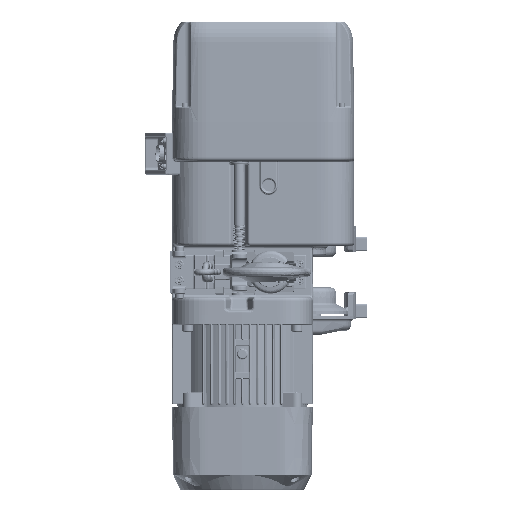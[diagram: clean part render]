
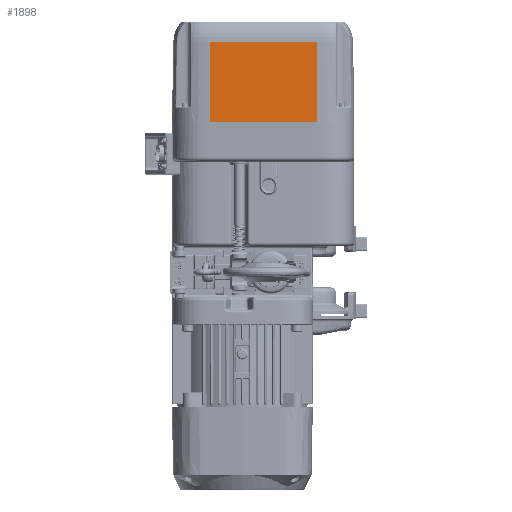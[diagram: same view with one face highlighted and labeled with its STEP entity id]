
A CAD part, front view. The second image highlights one B-rep face of the part: STEP entity #1898.
In plain terms, the highlighted planar face has unit normal (0, -1, 0.018).
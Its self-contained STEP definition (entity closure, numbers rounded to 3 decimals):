
#1898 = ADVANCED_FACE ( 'NONE', ( #129551 ), #201733, .T. ) ;
#33528 = VECTOR ( 'NONE', #210092, 1000. ) ;
#35741 = LINE ( 'NONE', #142224, #197074 ) ;
#37116 = ORIENTED_EDGE ( 'NONE', *, *, #121070, .T. ) ;
#39610 = DIRECTION ( 'NONE',  ( 0., -1., 0.017 ) ) ;
#42933 = AXIS2_PLACEMENT_3D ( 'NONE', #199420, #39610, #110636 ) ;
#45422 = LINE ( 'NONE', #117594, #166258 ) ;
#58141 = VERTEX_POINT ( 'NONE', #151865 ) ;
#64556 = LINE ( 'NONE', #156779, #33528 ) ;
#72826 = ORIENTED_EDGE ( 'NONE', *, *, #84686, .F. ) ;
#84686 = EDGE_CURVE ( 'NONE', #230215, #211831, #35741, .T. ) ;
#93206 = CARTESIAN_POINT ( 'NONE',  ( 87.226, -118.193, 132.162 ) ) ;
#99844 = LINE ( 'NONE', #162379, #127048 ) ;
#106689 = EDGE_CURVE ( 'NONE', #58141, #115657, #64556, .T. ) ;
#110636 = DIRECTION ( 'NONE',  ( 0., -0.017, -1. ) ) ;
#112841 = ORIENTED_EDGE ( 'NONE', *, *, #159918, .F. ) ;
#115657 = VERTEX_POINT ( 'NONE', #213572 ) ;
#117594 = CARTESIAN_POINT ( 'NONE',  ( 87.226, -118.193, 132.162 ) ) ;
#121070 = EDGE_CURVE ( 'NONE', #230215, #58141, #45422, .T. ) ;
#127048 = VECTOR ( 'NONE', #181340, 1000. ) ;
#129551 = FACE_OUTER_BOUND ( 'NONE', #149481, .T. ) ;
#142224 = CARTESIAN_POINT ( 'NONE',  ( 87.226, -120.5, 0. ) ) ;
#149481 = EDGE_LOOP ( 'NONE', ( #37116, #178034, #112841, #72826 ) ) ;
#151865 = CARTESIAN_POINT ( 'NONE',  ( -87.226, -118.193, 132.162 ) ) ;
#156779 = CARTESIAN_POINT ( 'NONE',  ( -87.226, -120.5, 0. ) ) ;
#159918 = EDGE_CURVE ( 'NONE', #211831, #115657, #99844, .T. ) ;
#162379 = CARTESIAN_POINT ( 'NONE',  ( 0., -120.5, 0. ) ) ;
#166258 = VECTOR ( 'NONE', #192132, 1000. ) ;
#178034 = ORIENTED_EDGE ( 'NONE', *, *, #106689, .T. ) ;
#181340 = DIRECTION ( 'NONE',  ( -1., 0., 0. ) ) ;
#192132 = DIRECTION ( 'NONE',  ( -1., 0., 0. ) ) ;
#197074 = VECTOR ( 'NONE', #214469, 1000. ) ;
#199420 = CARTESIAN_POINT ( 'NONE',  ( 0., -120.5, 0. ) ) ;
#201733 = PLANE ( 'NONE',  #42933 ) ;
#210092 = DIRECTION ( 'NONE',  ( 0., -0.017, -1. ) ) ;
#211831 = VERTEX_POINT ( 'NONE', #220513 ) ;
#213572 = CARTESIAN_POINT ( 'NONE',  ( -87.226, -120.5, 0. ) ) ;
#214469 = DIRECTION ( 'NONE',  ( 0., -0.017, -1. ) ) ;
#220513 = CARTESIAN_POINT ( 'NONE',  ( 87.226, -120.5, 0. ) ) ;
#230215 = VERTEX_POINT ( 'NONE', #93206 ) ;
